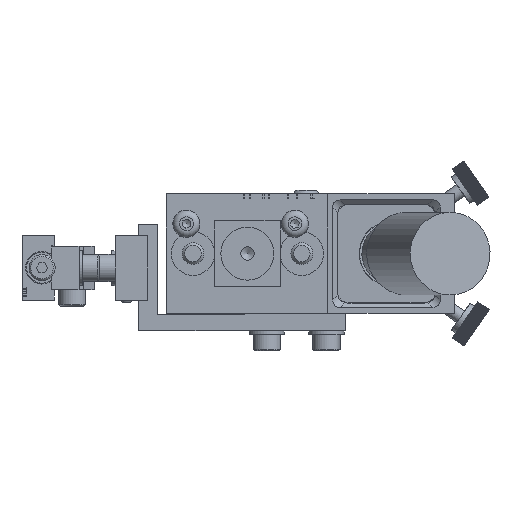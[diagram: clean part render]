
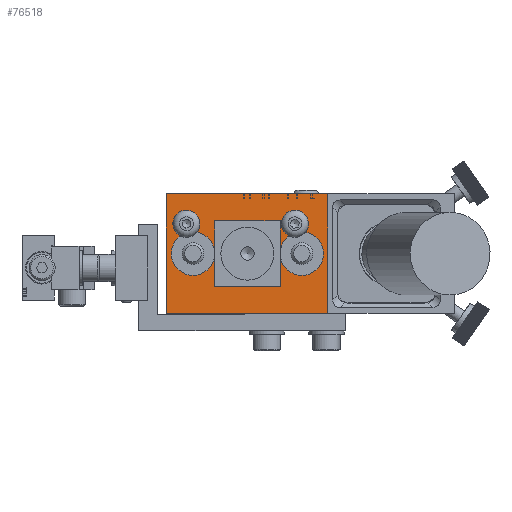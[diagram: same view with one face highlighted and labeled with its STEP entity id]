
A CAD part, left-side view. The second image highlights one B-rep face of the part: STEP entity #76518.
In plain terms, the highlighted planar face has unit normal (-1, 0, 0).
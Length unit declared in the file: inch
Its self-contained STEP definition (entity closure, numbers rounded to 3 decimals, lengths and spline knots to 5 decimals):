
#217=CARTESIAN_POINT('',(-1.05642,0.32046,-0.8635));
#218=VERTEX_POINT('',#217);
#219=CARTESIAN_POINT('',(-1.05642,0.32046,-0.953));
#220=DIRECTION('',(1.0,0.0,0.0));
#221=DIRECTION('',(0.0,0.0,-1.0));
#222=AXIS2_PLACEMENT_3D('',#219,#220,#221);
#223=CIRCLE('',#222,0.0895);
#224=EDGE_CURVE('',#218,#218,#223,.T.);
#285=CARTESIAN_POINT('',(-1.05642,-0.20954,-0.3325));
#286=VERTEX_POINT('',#285);
#287=CARTESIAN_POINT('',(-1.05642,-0.20954,-0.422));
#288=DIRECTION('',(1.0,0.0,0.0));
#289=DIRECTION('',(0.0,0.0,-1.0));
#290=AXIS2_PLACEMENT_3D('',#287,#288,#289);
#291=CIRCLE('',#290,0.0895);
#292=EDGE_CURVE('',#286,#286,#291,.T.);
#30170=CARTESIAN_POINT('',(-1.05642,0.99046,0.0));
#30171=VERTEX_POINT('',#30170);
#30178=CARTESIAN_POINT('',(-1.05642,-0.86954,0.0));
#30179=VERTEX_POINT('',#30178);
#30180=CARTESIAN_POINT('',(-1.05642,0.99046,0.0));
#30181=DIRECTION('',(0.0,-1.0,0.0));
#30182=VECTOR('',#30181,1.86);
#30183=LINE('',#30180,#30182);
#30184=EDGE_CURVE('',#30171,#30179,#30183,.T.);
#49976=CARTESIAN_POINT('',(-1.05642,-0.86954,-1.375));
#49977=VERTEX_POINT('',#49976);
#49984=CARTESIAN_POINT('',(-1.05642,0.99046,-1.375));
#49985=VERTEX_POINT('',#49984);
#49986=CARTESIAN_POINT('',(-1.05642,0.99046,-1.375));
#49987=DIRECTION('',(0.0,-1.0,0.0));
#49988=VECTOR('',#49987,1.86);
#49989=LINE('',#49986,#49988);
#49990=EDGE_CURVE('',#49985,#49977,#49989,.T.);
#75821=CARTESIAN_POINT('',(-1.05642,-0.55454,-0.344));
#75822=VERTEX_POINT('',#75821);
#75823=CARTESIAN_POINT('',(-1.05642,-0.48954,-0.344));
#75824=DIRECTION('',(1.0,0.0,0.0));
#75825=DIRECTION('',(0.0,-1.0,0.0));
#75826=AXIS2_PLACEMENT_3D('',#75823,#75824,#75825);
#75827=CIRCLE('',#75826,0.065);
#75828=EDGE_CURVE('',#75822,#75822,#75827,.T.);
#75858=CARTESIAN_POINT('',(-1.05642,0.69146,-0.344));
#75859=VERTEX_POINT('',#75858);
#75860=CARTESIAN_POINT('',(-1.05642,0.75646,-0.344));
#75861=DIRECTION('',(1.0,0.0,0.0));
#75862=DIRECTION('',(0.0,-1.0,0.0));
#75863=AXIS2_PLACEMENT_3D('',#75860,#75861,#75862);
#75864=CIRCLE('',#75863,0.065);
#75865=EDGE_CURVE('',#75859,#75859,#75864,.T.);
#75923=CARTESIAN_POINT('',(-1.05642,-0.16429,-0.687));
#75924=VERTEX_POINT('',#75923);
#75925=CARTESIAN_POINT('',(-1.05642,0.05546,-0.687));
#75926=DIRECTION('',(1.0,0.0,0.0));
#75927=DIRECTION('',(0.0,-1.0,0.0));
#75928=AXIS2_PLACEMENT_3D('',#75925,#75926,#75927);
#75929=CIRCLE('',#75928,0.21975);
#75930=EDGE_CURVE('',#75924,#75924,#75929,.T.);
#76105=CARTESIAN_POINT('',(-1.05642,-0.81947,-0.687));
#76106=VERTEX_POINT('',#76105);
#76107=CARTESIAN_POINT('',(-1.05642,-0.56954,-0.687));
#76108=DIRECTION('',(1.0,0.0,0.0));
#76109=DIRECTION('',(0.0,-1.0,0.0));
#76110=AXIS2_PLACEMENT_3D('',#76107,#76108,#76109);
#76111=CIRCLE('',#76110,0.24993);
#76112=EDGE_CURVE('',#76106,#76106,#76111,.T.);
#76152=CARTESIAN_POINT('',(-1.05642,0.43053,-0.687));
#76153=VERTEX_POINT('',#76152);
#76154=CARTESIAN_POINT('',(-1.05642,0.68046,-0.687));
#76155=DIRECTION('',(1.0,0.0,0.0));
#76156=DIRECTION('',(0.0,-1.0,0.0));
#76157=AXIS2_PLACEMENT_3D('',#76154,#76155,#76156);
#76158=CIRCLE('',#76157,0.24993);
#76159=EDGE_CURVE('',#76153,#76153,#76158,.T.);
#76399=CARTESIAN_POINT('',(-1.05642,-0.86954,0.0));
#76400=DIRECTION('',(0.0,0.0,-1.0));
#76401=VECTOR('',#76400,1.375);
#76402=LINE('',#76399,#76401);
#76403=EDGE_CURVE('',#30179,#49977,#76402,.T.);
#76475=CARTESIAN_POINT('',(-1.05642,0.99046,0.0));
#76476=DIRECTION('',(0.0,0.0,-1.0));
#76477=VECTOR('',#76476,1.375);
#76478=LINE('',#76475,#76477);
#76479=EDGE_CURVE('',#30171,#49985,#76478,.T.);
#76486=CARTESIAN_POINT('',(-1.05642,0.99046,0.0));
#76487=DIRECTION('',(-1.0,0.0,0.0));
#76488=DIRECTION('',(0.0,0.0,1.0));
#76489=AXIS2_PLACEMENT_3D('',#76486,#76487,#76488);
#76490=PLANE('',#76489);
#76491=ORIENTED_EDGE('',*,*,#49990,.T.);
#76492=ORIENTED_EDGE('',*,*,#76403,.F.);
#76493=ORIENTED_EDGE('',*,*,#30184,.F.);
#76494=ORIENTED_EDGE('',*,*,#76479,.T.);
#76495=EDGE_LOOP('',(#76491,#76492,#76493,#76494));
#76496=FACE_OUTER_BOUND('',#76495,.T.);
#76497=ORIENTED_EDGE('',*,*,#224,.T.);
#76498=EDGE_LOOP('',(#76497));
#76499=FACE_BOUND('',#76498,.T.);
#76500=ORIENTED_EDGE('',*,*,#292,.T.);
#76501=EDGE_LOOP('',(#76500));
#76502=FACE_BOUND('',#76501,.T.);
#76503=ORIENTED_EDGE('',*,*,#75828,.T.);
#76504=EDGE_LOOP('',(#76503));
#76505=FACE_BOUND('',#76504,.T.);
#76506=ORIENTED_EDGE('',*,*,#75865,.T.);
#76507=EDGE_LOOP('',(#76506));
#76508=FACE_BOUND('',#76507,.T.);
#76509=ORIENTED_EDGE('',*,*,#75930,.T.);
#76510=EDGE_LOOP('',(#76509));
#76511=FACE_BOUND('',#76510,.T.);
#76512=ORIENTED_EDGE('',*,*,#76112,.T.);
#76513=EDGE_LOOP('',(#76512));
#76514=FACE_BOUND('',#76513,.T.);
#76515=ORIENTED_EDGE('',*,*,#76159,.T.);
#76516=EDGE_LOOP('',(#76515));
#76517=FACE_BOUND('',#76516,.T.);
#76518=ADVANCED_FACE('',(#76496,#76499,#76502,#76505,#76508,#76511,#76514,#76517),#76490,.T.);
